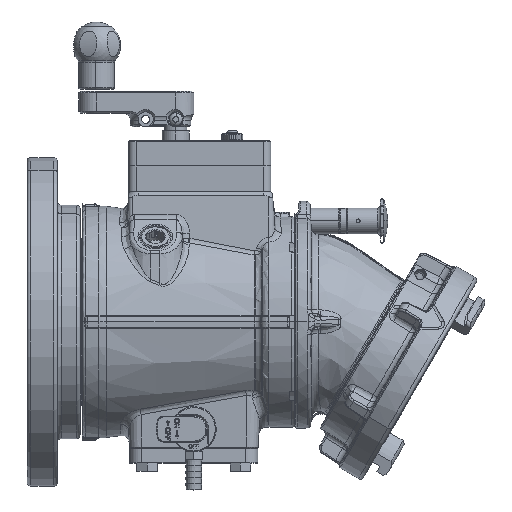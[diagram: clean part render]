
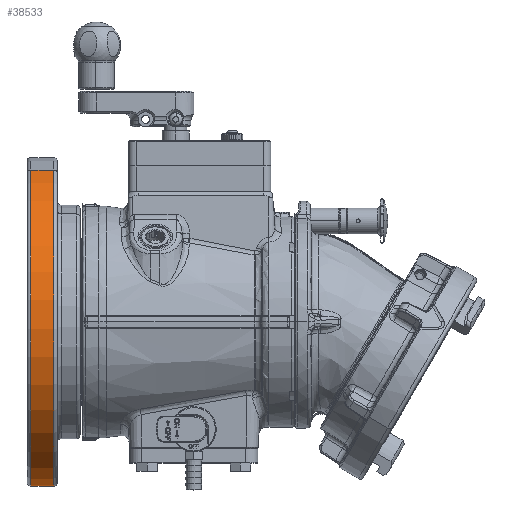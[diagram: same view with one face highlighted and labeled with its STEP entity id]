
A CAD part, top view. The second image highlights one B-rep face of the part: STEP entity #38533.
In plain terms, the highlighted cylindrical face has radius 138.43 mm (diameter 276.86 mm), a partial arc.
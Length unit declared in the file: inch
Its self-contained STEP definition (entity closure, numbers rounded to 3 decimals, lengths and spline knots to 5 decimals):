
#61 = CARTESIAN_POINT ( 'NONE',  ( -4.05, 0., 0. ) ) ;
#1096 = FACE_OUTER_BOUND ( 'NONE', #60132, .T. ) ;
#2263 = CARTESIAN_POINT ( 'NONE',  ( -4.95005, 0., 0. ) ) ;
#3634 = DIRECTION ( 'NONE',  ( -1., 0., 0. ) ) ;
#4639 = CARTESIAN_POINT ( 'NONE',  ( -4.05, 5.03514, 2.08562 ) ) ;
#4802 = DIRECTION ( 'NONE',  ( 0., 0.924, 0.383 ) ) ;
#5092 = ORIENTED_EDGE ( 'NONE', *, *, #48045, .T. ) ;
#7593 = DIRECTION ( 'NONE',  ( 0., -0.924, -0.383 ) ) ;
#9996 = CARTESIAN_POINT ( 'NONE',  ( -4.95005, 5.03514, 2.08562 ) ) ;
#11392 = LINE ( 'NONE', #62156, #61191 ) ;
#16272 = EDGE_CURVE ( 'NONE', #88194, #18250, #62522, .T. ) ;
#18250 = VERTEX_POINT ( 'NONE', #71622 ) ;
#21060 = AXIS2_PLACEMENT_3D ( 'NONE', #51003, #58800, #4802 ) ;
#21128 = VECTOR ( 'NONE', #95307, 39.37008 ) ;
#22236 = EDGE_CURVE ( 'NONE', #18250, #92828, #61126, .T. ) ;
#25891 = AXIS2_PLACEMENT_3D ( 'NONE', #2263, #3634, #42025 ) ;
#37260 = CARTESIAN_POINT ( 'NONE',  ( -4.8122, -5.03514, -2.08562 ) ) ;
#38533 = ADVANCED_FACE ( 'NONE', ( #1096 ), #59420, .T. ) ;
#42025 = DIRECTION ( 'NONE',  ( 0., -0.924, -0.383 ) ) ;
#48045 = EDGE_CURVE ( 'NONE', #64838, #88194, #75069, .T. ) ;
#51003 = CARTESIAN_POINT ( 'NONE',  ( -4.8122, 0., 0. ) ) ;
#51215 = CARTESIAN_POINT ( 'NONE',  ( -4.05, -5.03514, -2.08562 ) ) ;
#52753 = ORIENTED_EDGE ( 'NONE', *, *, #22236, .T. ) ;
#58800 = DIRECTION ( 'NONE',  ( 1., 0., 0. ) ) ;
#59420 = CYLINDRICAL_SURFACE ( 'NONE', #25891, 5.45 ) ;
#60132 = EDGE_LOOP ( 'NONE', ( #5092, #71636, #52753, #67953 ) ) ;
#61126 = CIRCLE ( 'NONE', #21060, 5.45 ) ;
#61191 = VECTOR ( 'NONE', #92791, 39.37008 ) ;
#62156 = CARTESIAN_POINT ( 'NONE',  ( -4.95005, -5.03514, -2.08562 ) ) ;
#62522 = LINE ( 'NONE', #9996, #21128 ) ;
#64838 = VERTEX_POINT ( 'NONE', #51215 ) ;
#67953 = ORIENTED_EDGE ( 'NONE', *, *, #71837, .F. ) ;
#68349 = AXIS2_PLACEMENT_3D ( 'NONE', #61, #70092, #7593 ) ;
#70092 = DIRECTION ( 'NONE',  ( -1., 0., 0. ) ) ;
#71622 = CARTESIAN_POINT ( 'NONE',  ( -4.8122, 5.03514, 2.08562 ) ) ;
#71636 = ORIENTED_EDGE ( 'NONE', *, *, #16272, .T. ) ;
#71837 = EDGE_CURVE ( 'NONE', #64838, #92828, #11392, .T. ) ;
#75069 = CIRCLE ( 'NONE', #68349, 5.45 ) ;
#88194 = VERTEX_POINT ( 'NONE', #4639 ) ;
#92791 = DIRECTION ( 'NONE',  ( -1., 0., 0. ) ) ;
#92828 = VERTEX_POINT ( 'NONE', #37260 ) ;
#95307 = DIRECTION ( 'NONE',  ( -1., 0., 0. ) ) ;
